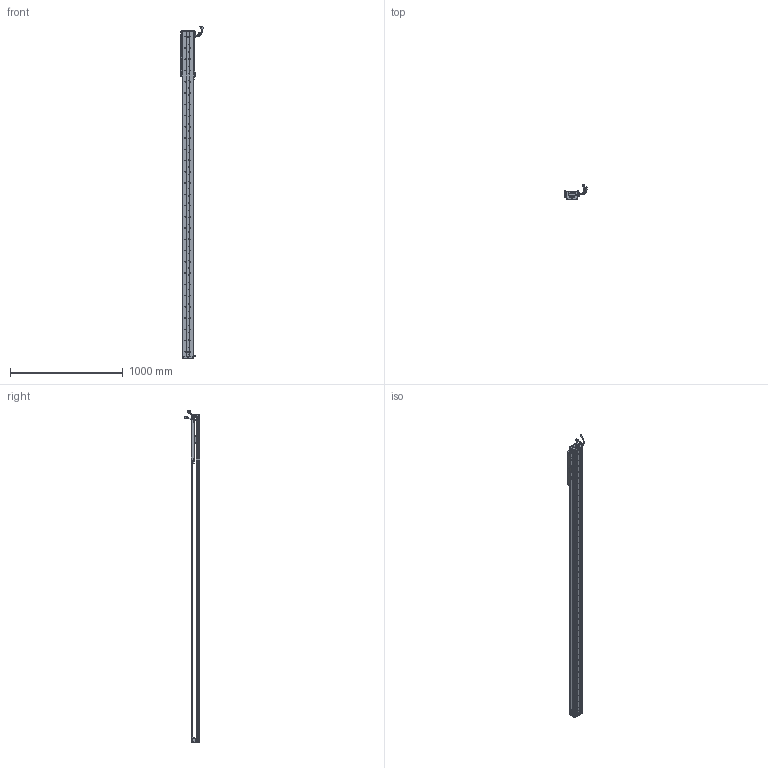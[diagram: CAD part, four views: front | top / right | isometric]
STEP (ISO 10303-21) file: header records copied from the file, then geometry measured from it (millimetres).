
FILE_DESCRIPTION (( 'STEP AP203' ), '1' );
FILE_NAME ('Z5-RY100D-1-L500-B-K.SLDASM_2450.step', '2021-05-17T03:35:01', ( '盈信电脑' ), ( '东莞市道滘镇水果街19号' ), 'SwSTEP 2.0', 'SolidWorks 2016', '' );
FILE_SCHEMA (( 'CONFIG_CONTROL_DESIGN' ));
Length unit declared in the file: millimetre
Products named in the file (36): SEAL; 140雄赽晤鎢ん堤盄; HARNESS-Part-2; 080黍杅芛假蚾釱21遴; Z-RY100D詩湍奻揤裔; SCREW-M1.7-1; SCREW-M1.6; HOLDER0; LABEL-Part-1; Z-100詩湍傷裔啣; Z5-RY100D-500-倰第菁釱_2450; COVER; PSLH080_PSLF2; COVER-Part-1; Z-RY100D覜茼んえ; HARNESS; 覜茼ん672; SCREW-M1.7; 100-Z-臏賑輸盄裔(21遴); 榋妏寠巭燃_暯_M2_2; Z5-RY100D-1-L500-B-K.SLDASM_2450; SCREW-M1.6-2; HARNESS-Part-1; SHIELDPLATE; Z5-RY100-L500詩湍90mm遵_2450; SCALE; Z5-RY100铝滑块（21款）; SEAL-Part-1; PBU_SHEET; 140蚥薯蝶輸; Z-RY100D詩湍狟揤裔; LABEL; SCALE-Part-2; SCALE-Part-1; SCREW-M1.6-3; SCREW-M1.6-1
Assembly tree (43 placements, depth 4):
  Z5-RY100D-1-L500-B-K.SLDASM_2450
    Z5-RY100D-500-倰第菁釱_2450
    Z5-RY100铝滑块（21款）
    PSLH080_PSLF2
      SCALE
        SCALE-Part-1
        SCALE-Part-2
      HARNESS
        HARNESS-Part-1
        HARNESS-Part-2
      LABEL
        LABEL-Part-1
      COVER
        COVER-Part-1
      SEAL
        SEAL-Part-1
      榋妏寠巭燃_暯_M2_2
      SHIELDPLATE
      SCREW-M1.7
      SCREW-M1.7-1
      PBU_SHEET
      SCREW-M1.6
      SCREW-M1.6-1
      SCREW-M1.6-2
      SCREW-M1.6-3
      HOLDER0
    080黍杅芛假蚾釱21遴
    Z-100詩湍傷裔啣  x2
    140蚥薯蝶輸  x2
    覜茼ん672  x3
    Z-RY100D覜茼んえ  x3
    100-Z-臏賑輸盄裔(21遴)
    140雄赽晤鎢ん堤盄
    Z5-RY100-L500詩湍90mm遵_2450
    Z-RY100D詩湍狟揤裔  x2
    Z-RY100D詩湍奻揤裔  x2
Bounding box: 205.79 x 136.11 x 2950.43 mm (x, y, z)
Volume: 5549698.2 mm3; surface area: 2156070.4 mm2
Topology: 38 solids, 38 shells, 3091 faces, 8473 edges, 5416 vertices
Faces by surface type: cylinder 1546, plane 1197, cone 226, torus 69, bspline 53
Entity records: 90239 total; most frequent: CARTESIAN_POINT 18863, DIRECTION 14599, ORIENTED_EDGE 13826, EDGE_CURVE 6913, AXIS2_PLACEMENT_3D 5508, VERTEX_POINT 4484, LINE 3583, VECTOR 3583
